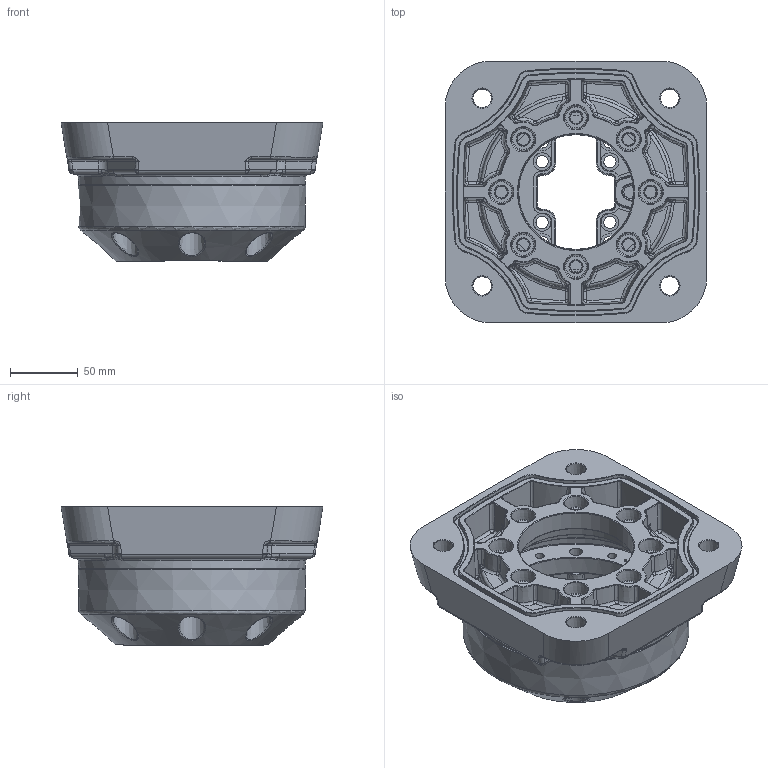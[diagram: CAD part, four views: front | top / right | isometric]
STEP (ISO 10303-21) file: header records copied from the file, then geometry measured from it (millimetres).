
FILE_DESCRIPTION(/* description */ (''),/* implementation_level */ '2;1');
FILE_NAME(/* name */ '75-110-580.stp',/* time_stamp */ '2025-03-19T12:57:59+08:00',/* author */ (''),/* organization */ (''),/* preprocessor_version */ 'ST-DEVELOPER v11',/* originating_system */ 'SIEMENS PLM Software NX 7.0',/* authorisation */ '');
FILE_SCHEMA (('AUTOMOTIVE_DESIGN { 1 0 10303 214 1 1 1 1 }'));
Length unit declared in the file: millimetre
Products named in the file (1): PC615Dcm2o
Bounding box: 194 x 194 x 102.8 mm (x, y, z)
Volume: 1135656.6 mm3; surface area: 236426.2 mm2
Topology: 2 solids, 2 shells, 1362 faces, 3249 edges, 1869 vertices
Faces by surface type: bspline 575, torus 260, cylinder 189, plane 157, cone 147, extrusion 20, sphere 14
Full cylindrical faces by diameter (mm): 13.754 x4
Entity records: 60168 total; most frequent: CARTESIAN_POINT 24272, ORIENTED_EDGE 5928, DIRECTION 4807, EDGE_CURVE 2964, AXIS2_PLACEMENT_3D 2177, VERTEX_POINT 1795, EDGE_LOOP 1611, PRESENTATION_STYLE_ASSIGNMENT 1364
